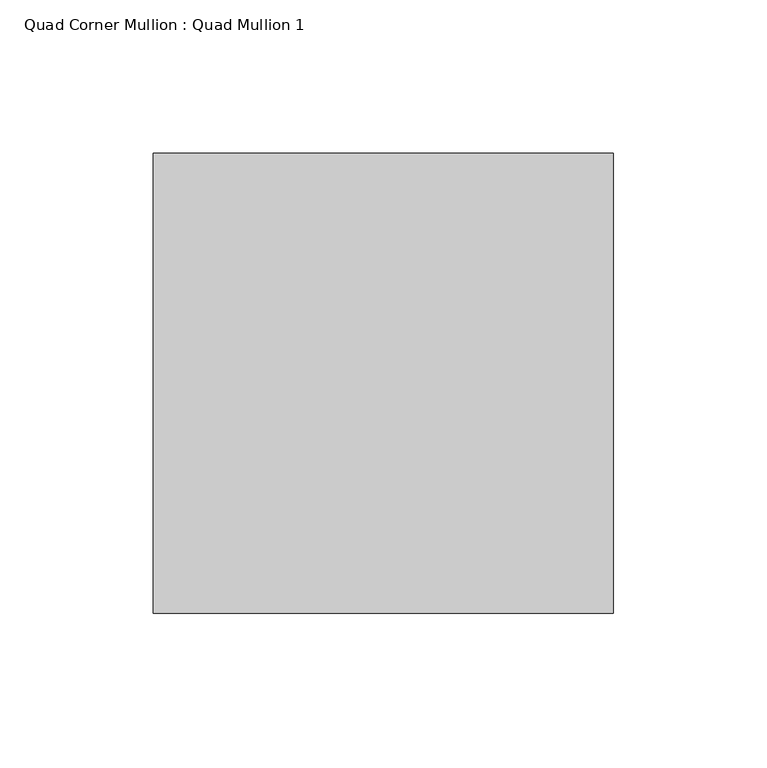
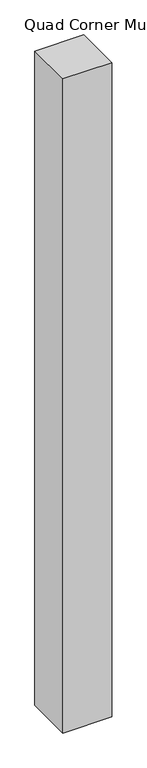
"""IFC4 building model written with IfcOpenShell, lengths in millimetres: member geometry, Quad Corner Mullion : Quad Mullion 1."""

from ifc_helpers import new_model, si_unit, frame, origin, place, context, project, spatial, polyline, outline, extrude, source, transform, mapped, element, save


def quad_corner_mullion_quad_mullion_1_fda5a4be(model_context):
    return source(origin(), model_context, "Body", "SweptSolid", [
        extrude(outline(polyline([(75.0, 75.0), (75.0, -75.0), (-75.0, -75.0), (-75.0, 75.0), (75.0, 75.0)])), frame((0.0, 0.0, -2133.6), z_axis=(0.0, 0.0, 1.0), x_axis=(1.0, 0.0, 0.0)), (0.0, 0.0, 1.0), 2133.6),
    ])


if __name__ == "__main__":
    model = new_model("IFC4")
    model_context = context("Model", 3, world=origin())
    ifc_project = project(units=[si_unit("LENGTHUNIT", "METRE", prefix="MILLI")], contexts=[model_context])
    site = spatial("IfcSite", under=ifc_project)
    building = spatial("IfcBuilding", under=site)
    placement = place(None, origin())
    quad_corner_mullion_quad_mullion_1_shape = quad_corner_mullion_quad_mullion_1_fda5a4be(model_context)
    element("IfcMember", 1, ObjectType="Quad Corner Mullion : Quad Mullion 1", at=placement, inside=building, context=model_context, shape_type="MappedRepresentation", body=[
        mapped(quad_corner_mullion_quad_mullion_1_shape, transform((0.0, 0.0, 0.0), x_axis=(1.0, 0.0, 0.0), y_axis=(0.0, 1.0, 0.0), z_axis=(0.0, 0.0, 1.0))),
    ])
    save(model, "model.ifc")
